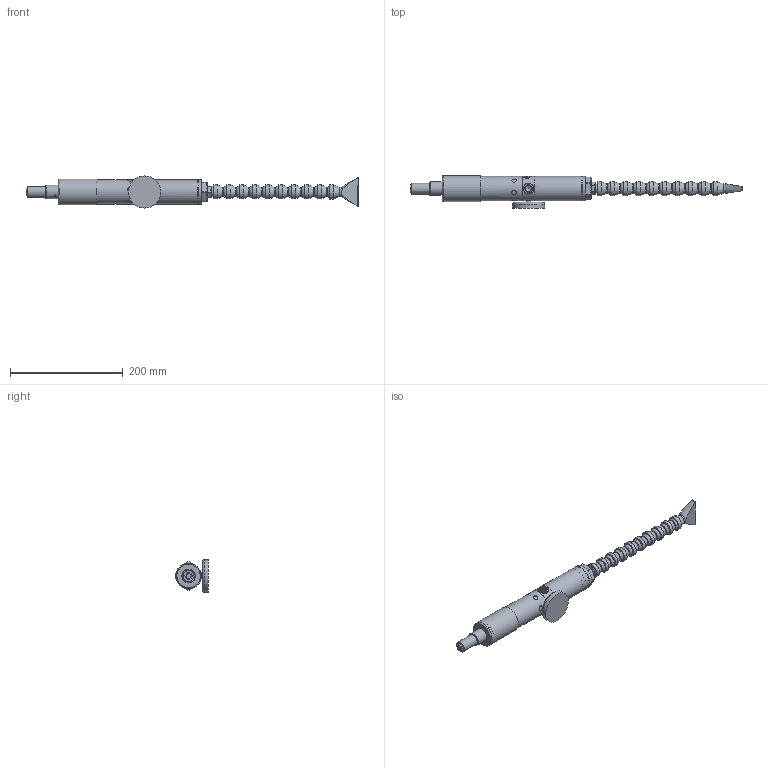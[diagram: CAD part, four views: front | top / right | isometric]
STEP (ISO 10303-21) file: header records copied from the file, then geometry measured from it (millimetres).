
FILE_DESCRIPTION (( 'STEP AP214' ), '1' );
FILE_NAME ('SIMP - CS_15 R Q1200-2.STEP', '2023-06-02T11:52:29', ( '' ), ( '' ), 'SwSTEP 2.0', 'SolidWorks 2021', '' );
FILE_SCHEMA (( 'AUTOMOTIVE_DESIGN' ));
Length unit declared in the file: millimetre
Products named in the file (1): SIMP - CS_15 R Q1200-2
Bounding box: 587.9 x 57.98 x 57 mm (x, y, z)
Volume: 466445.6 mm3; surface area: 106797.5 mm2
Topology: 17 solids, 22 shells, 1551 faces, 4078 edges, 2678 vertices
Faces by surface type: plane 921, bspline 312, cylinder 221, cone 58, torus 39
Full cylindrical faces by diameter (mm): 3.2 x1, 3.3 x1, 4 x1, 6 x1, 6.5 x1, 7 x1, 8 x6, 9 x1, 9.4 x1, 9.5 x1, 10 x2, 11.8 x7, 12.2 x1, 12.3 x9, 12.95 x1, 13 x1, 13.16 x1, 14.2 x1, 16.2 x1, 16.3 x9, 16.95 x1, 19 x2, 19.3 x1, 20.8 x1, 21 x9, 23.9 x1, 24.8 x1, 25 x9, 35.8 x1, 39.8 x2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
Entity records: 89170 total; most frequent: CARTESIAN_POINT 37095, ORIENTED_EDGE 7676, DIRECTION 6324, EDGE_CURVE 3838, VERTEX_POINT 2618, AXIS2_PLACEMENT_3D 2347, EDGE_LOOP 1860, FACE_OUTER_BOUND 1664
